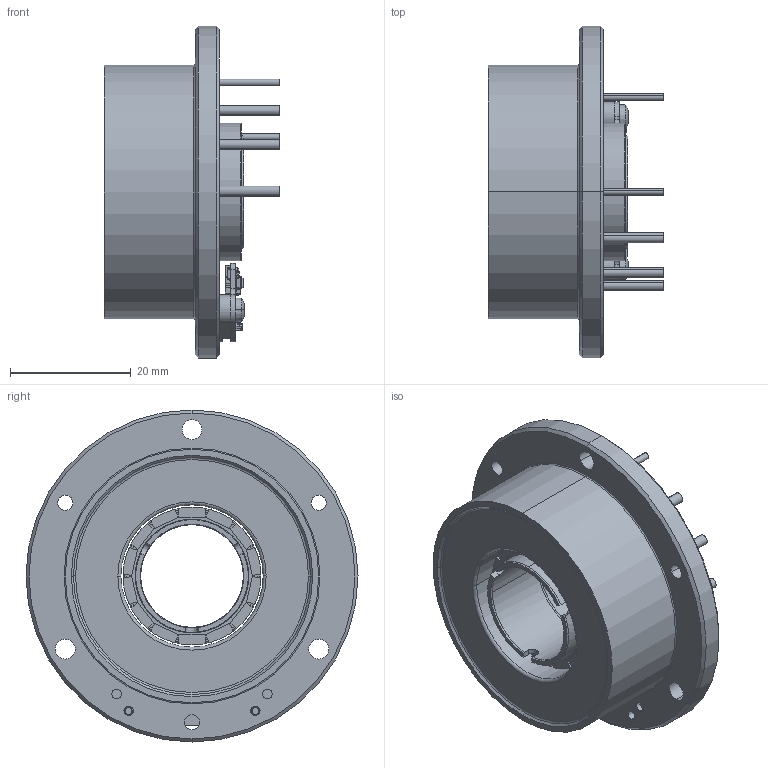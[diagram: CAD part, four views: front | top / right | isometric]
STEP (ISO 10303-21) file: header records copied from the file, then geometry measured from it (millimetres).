
FILE_DESCRIPTION((''),'2;1');
FILE_NAME('9757098_ASM','2024-01-19T10:41:11',('MMAGMUAG'),(''),'CREO PARAMETRIC BY PTC INC, 2022484','CREO PARAMETRIC BY PTC INC, 2022484','');
FILE_SCHEMA(('CONFIG_CONTROL_DESIGN','SHAPE_APPEARANCE_LAYERS_GROUPS'));
Products named in the file (20): 9747956; 9434376_ASM; 9749036_ASM; 9751041_ASM; 9753198; 9753188_ASM; 9788876; 9740104; 9797498; 9844999_ASM; 9783300; 6428468; 6421355; 6732790; 6413567; 9909847; 6421360_ASM; 9193063; 10564710_AF0; 9757098_ASM
Assembly tree (32 placements, depth 5):
  9757098_ASM
    9753188_ASM
      9751041_ASM
        9747956
        9749036_ASM
          9434376_ASM
      9753198
    9844999_ASM
      9788876
      9740104  x7
      9797498  x7
    9783300
    6428468
    6421360_ASM
      6421355
      6732790
      6413567
      9909847
    9193063  x2
    10564710_AF0
Bounding box: 29 x 55 x 55 mm (x, y, z)
Volume: 24335.6 mm3; surface area: 20725.9 mm2
Topology: 102 solids, 102 shells, 4668 faces, 13296 edges, 8848 vertices
Faces by surface type: plane 2757, cylinder 1294, sphere 297, bspline 219, cone 53, torus 48
Entity records: 226595 total; most frequent: CARTESIAN_POINT 45681, ORIENTED_EDGE 25326, DIRECTION 21131, PRESENTATION_STYLE_ASSIGNMENT 16735, STYLED_ITEM 12772, CURVE_STYLE 12663, EDGE_CURVE 12663, VERTEX_POINT 8668
